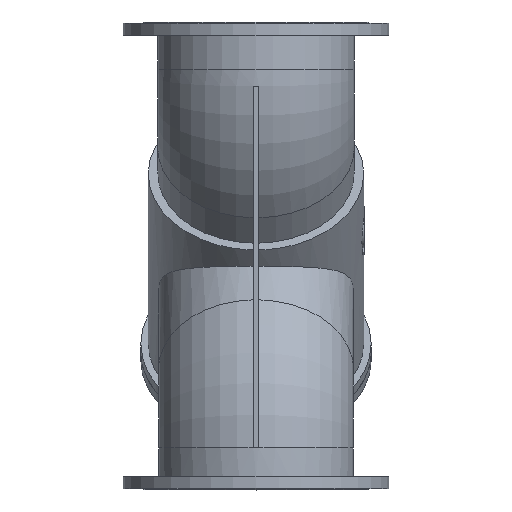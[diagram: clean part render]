
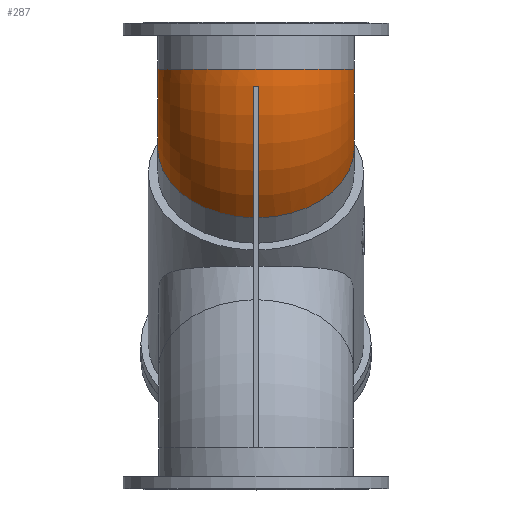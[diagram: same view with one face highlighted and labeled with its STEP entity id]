
A CAD part, top view. The second image highlights one B-rep face of the part: STEP entity #287.
In plain terms, the highlighted toroidal (fillet/blend) face has major radius 300 mm and minor radius 262 mm.
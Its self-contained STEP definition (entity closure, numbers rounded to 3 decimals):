
#287=ADVANCED_FACE('',(#1203,#1205),#1207,.T.);
#1203=FACE_BOUND('',#1204,.T.);
#1204=EDGE_LOOP('',(#2193,#2194,#2195,#2196,#2197));
#1205=FACE_OUTER_BOUND('',#1206,.T.);
#1206=EDGE_LOOP('',(#2198));
#1207=TOROIDAL_SURFACE('',#1208,300.,262.);
#1208=AXIS2_PLACEMENT_3D('',#1209,#1210,#1211);
#1209=CARTESIAN_POINT('',(0.,499.264,-300.));
#1210=DIRECTION('',(1.,0.,0.));
#1211=DIRECTION('',(0.,0.,1.));
#2193=ORIENTED_EDGE('',*,*,#2524,.F.);
#2194=ORIENTED_EDGE('',*,*,#2536,.F.);
#2195=ORIENTED_EDGE('',*,*,#2515,.F.);
#2196=ORIENTED_EDGE('',*,*,#2534,.F.);
#2197=ORIENTED_EDGE('',*,*,#2533,.F.);
#2198=ORIENTED_EDGE('',*,*,#2537,.T.);
#2515=EDGE_CURVE('',#2752,#2754,#2755,.T.);
#2524=EDGE_CURVE('',#2768,#2770,#2771,.F.);
#2533=EDGE_CURVE('',#2770,#2784,#2785,.F.);
#2534=EDGE_CURVE('',#2784,#2752,#2786,.T.);
#2536=EDGE_CURVE('',#2754,#2768,#2788,.T.);
#2537=EDGE_CURVE('',#2789,#2789,#2790,.T.);
#2752=VERTEX_POINT('',#4006);
#2754=VERTEX_POINT('',#4010);
#2755=CIRCLE('',#4011,561.893);
#2768=VERTEX_POINT('',#4044);
#2770=VERTEX_POINT('',#4048);
#2771=CIRCLE('',#4049,561.893);
#2784=VERTEX_POINT('',#4086);
#2785=B_SPLINE_CURVE_WITH_KNOTS('',3,
(#4087,#4088,#4089,#4090,#4091,#4092,#4093,#4094,#4095,#4096,#4097,#4098,#4099,#4100,
#4101,#4102,#4103,#4104,#4105,#4106,#4107,#4108,#4109,#4110,#4111,#4112,#4113,#4114,
#4115,#4116),
.UNSPECIFIED.,.F.,.F.,
(4,1,1,1,1,1,1,1,1,1,1,1,1,1,1,1,1,1,1,1,1,1,1,1,1,1,1,4),
(0.,0.054,0.108,0.161,0.183,0.214,
0.265,0.316,0.365,0.413,0.46,
0.506,0.547,0.55,0.592,0.633,
0.672,0.71,0.746,0.781,0.815,
0.848,0.865,0.88,0.911,0.941,
0.971,1.),
.UNSPECIFIED.);
#2786=B_SPLINE_CURVE_WITH_KNOTS('',3,
(#4117,#4118,#4119,#4120,#4121,#4122,#4123,#4124,#4125,#4126,#4127,#4128,#4129,#4130,
#4131,#4132,#4133,#4134,#4135,#4136,#4137,#4138,#4139,#4140,#4141,#4142,#4143,#4144,
#4145,#4146),
.UNSPECIFIED.,.F.,.F.,
(4,1,1,1,1,1,1,1,1,1,1,1,1,1,1,1,1,1,1,1,1,1,1,1,1,1,1,4),
(0.,0.054,0.108,0.161,0.183,0.214,
0.265,0.316,0.365,0.413,0.46,
0.506,0.547,0.55,0.592,0.633,
0.672,0.71,0.746,0.781,0.815,
0.848,0.865,0.88,0.911,0.941,
0.971,1.),
.UNSPECIFIED.);
#2788=CIRCLE('',#4150,262.);
#2789=VERTEX_POINT('',#4154);
#2790=CIRCLE('',#4155,262.);
#4006=CARTESIAN_POINT('',(-7.5,453.184,260.));
#4010=CARTESIAN_POINT('',(-7.5,101.946,97.318));
#4011=AXIS2_PLACEMENT_3D('',#4012,#4013,#4014);
#4012=CARTESIAN_POINT('',(-7.5,499.264,-300.));
#4013=DIRECTION('',(1.,0.,0.));
#4014=DIRECTION('',(0.,-0.082,0.997));
#4044=CARTESIAN_POINT('',(7.5,101.946,97.318));
#4048=CARTESIAN_POINT('',(7.5,453.184,260.));
#4049=AXIS2_PLACEMENT_3D('',#4050,#4051,#4052);
#4050=CARTESIAN_POINT('',(7.5,499.264,-300.));
#4051=DIRECTION('',(1.,0.,0.));
#4052=DIRECTION('',(0.,-0.082,0.997));
#4086=CARTESIAN_POINT('',(0.,451.893,260.));
#4087=CARTESIAN_POINT('',(0.,451.893,260.));
#4088=CARTESIAN_POINT('',(0.138,451.893,260.));
#4089=CARTESIAN_POINT('',(0.414,451.896,260.));
#4090=CARTESIAN_POINT('',(0.825,451.907,260.));
#4091=CARTESIAN_POINT('',(1.153,451.923,260.));
#4092=CARTESIAN_POINT('',(1.421,451.939,260.));
#4093=CARTESIAN_POINT('',(1.686,451.957,260.));
#4094=CARTESIAN_POINT('',(2.023,451.985,260.));
#4095=CARTESIAN_POINT('',(2.407,452.023,260.));
#4096=CARTESIAN_POINT('',(2.779,452.067,260.));
#4097=CARTESIAN_POINT('',(3.144,452.117,260.));
#4098=CARTESIAN_POINT('',(3.499,452.17,260.));
#4099=CARTESIAN_POINT('',(3.837,452.227,260.));
#4100=CARTESIAN_POINT('',(4.063,452.268,260.));
#4101=CARTESIAN_POINT('',(4.28,452.309,260.));
#4102=CARTESIAN_POINT('',(4.495,452.352,260.));
#4103=CARTESIAN_POINT('',(4.801,452.417,260.));
#4104=CARTESIAN_POINT('',(5.094,452.484,260.));
#4105=CARTESIAN_POINT('',(5.373,452.551,260.));
#4106=CARTESIAN_POINT('',(5.642,452.619,260.));
#4107=CARTESIAN_POINT('',(5.901,452.688,260.));
#4108=CARTESIAN_POINT('',(6.151,452.757,260.));
#4109=CARTESIAN_POINT('',(6.356,452.817,260.));
#4110=CARTESIAN_POINT('',(6.514,452.864,260.));
#4111=CARTESIAN_POINT('',(6.666,452.91,260.));
#4112=CARTESIAN_POINT('',(6.851,452.968,260.));
#4113=CARTESIAN_POINT('',(7.072,453.039,260.));
#4114=CARTESIAN_POINT('',(7.288,453.111,260.));
#4115=CARTESIAN_POINT('',(7.43,453.16,260.));
#4116=CARTESIAN_POINT('',(7.5,453.184,260.));
#4117=CARTESIAN_POINT('',(0.,451.893,260.));
#4118=CARTESIAN_POINT('',(-0.138,451.893,260.));
#4119=CARTESIAN_POINT('',(-0.414,451.896,260.));
#4120=CARTESIAN_POINT('',(-0.825,451.907,260.));
#4121=CARTESIAN_POINT('',(-1.153,451.923,260.));
#4122=CARTESIAN_POINT('',(-1.421,451.939,260.));
#4123=CARTESIAN_POINT('',(-1.686,451.957,260.));
#4124=CARTESIAN_POINT('',(-2.023,451.985,260.));
#4125=CARTESIAN_POINT('',(-2.407,452.023,260.));
#4126=CARTESIAN_POINT('',(-2.779,452.067,260.));
#4127=CARTESIAN_POINT('',(-3.144,452.117,260.));
#4128=CARTESIAN_POINT('',(-3.499,452.17,260.));
#4129=CARTESIAN_POINT('',(-3.837,452.227,260.));
#4130=CARTESIAN_POINT('',(-4.063,452.268,260.));
#4131=CARTESIAN_POINT('',(-4.28,452.309,260.));
#4132=CARTESIAN_POINT('',(-4.495,452.352,260.));
#4133=CARTESIAN_POINT('',(-4.801,452.417,260.));
#4134=CARTESIAN_POINT('',(-5.094,452.484,260.));
#4135=CARTESIAN_POINT('',(-5.373,452.551,260.));
#4136=CARTESIAN_POINT('',(-5.642,452.619,260.));
#4137=CARTESIAN_POINT('',(-5.901,452.688,260.));
#4138=CARTESIAN_POINT('',(-6.151,452.757,260.));
#4139=CARTESIAN_POINT('',(-6.356,452.817,260.));
#4140=CARTESIAN_POINT('',(-6.514,452.864,260.));
#4141=CARTESIAN_POINT('',(-6.666,452.91,260.));
#4142=CARTESIAN_POINT('',(-6.851,452.968,260.));
#4143=CARTESIAN_POINT('',(-7.072,453.039,260.));
#4144=CARTESIAN_POINT('',(-7.288,453.111,260.));
#4145=CARTESIAN_POINT('',(-7.43,453.16,260.));
#4146=CARTESIAN_POINT('',(-7.5,453.184,260.));
#4150=AXIS2_PLACEMENT_3D('',#4151,#4152,#4153);
#4151=CARTESIAN_POINT('',(0.,287.132,-87.868));
#4152=DIRECTION('',(0.,-0.707,-0.707));
#4153=DIRECTION('',(-0.029,-0.707,0.707));
#4154=CARTESIAN_POINT('',(0.,499.264,262.));
#4155=AXIS2_PLACEMENT_3D('',#4156,#4157,#4158);
#4156=CARTESIAN_POINT('',(0.,499.264,0.));
#4157=DIRECTION('',(0.,-1.,0.));
#4158=DIRECTION('',(0.,0.,1.));
